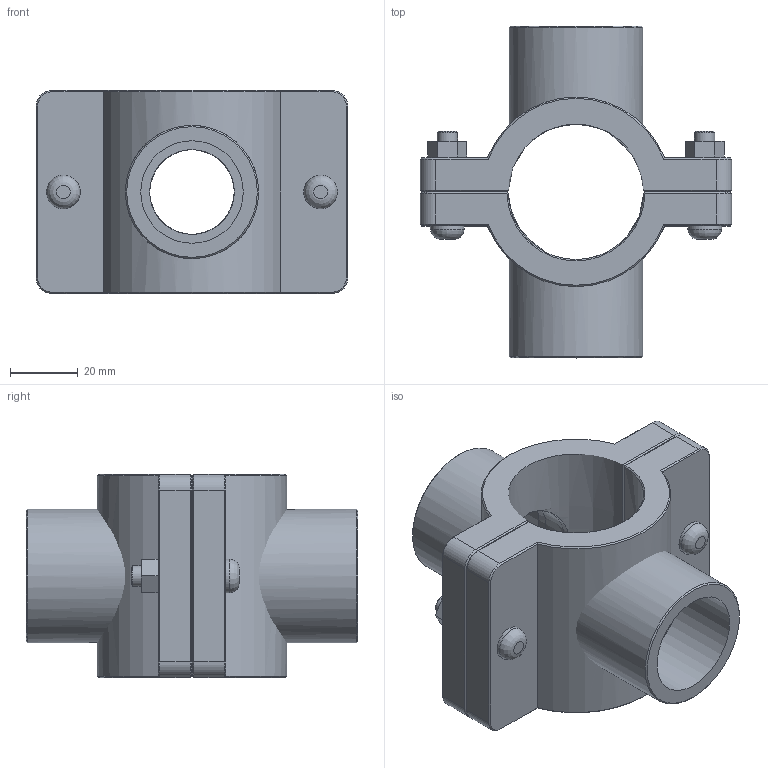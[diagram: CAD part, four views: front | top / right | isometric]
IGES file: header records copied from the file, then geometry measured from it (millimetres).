
Global section: file name: 161760040010_161860040010.ipt; native system: Autodesk Inventor 2015; preprocessor: unknown; author: KIM; date: 20170618.093651; units: millimetre
Bounding box: 92 x 98 x 60 mm (x, y, z)
Volume: 145179.7 mm3; surface area: 48653.6 mm2
Topology: 3 solids, 3 shells, 123 faces, 287 edges, 180 vertices
Faces by surface type: plane 66, cone 24, cylinder 18, revolution 15
Full cylindrical faces by diameter (mm): 6 x2, 10 x4, 39.378 x2
